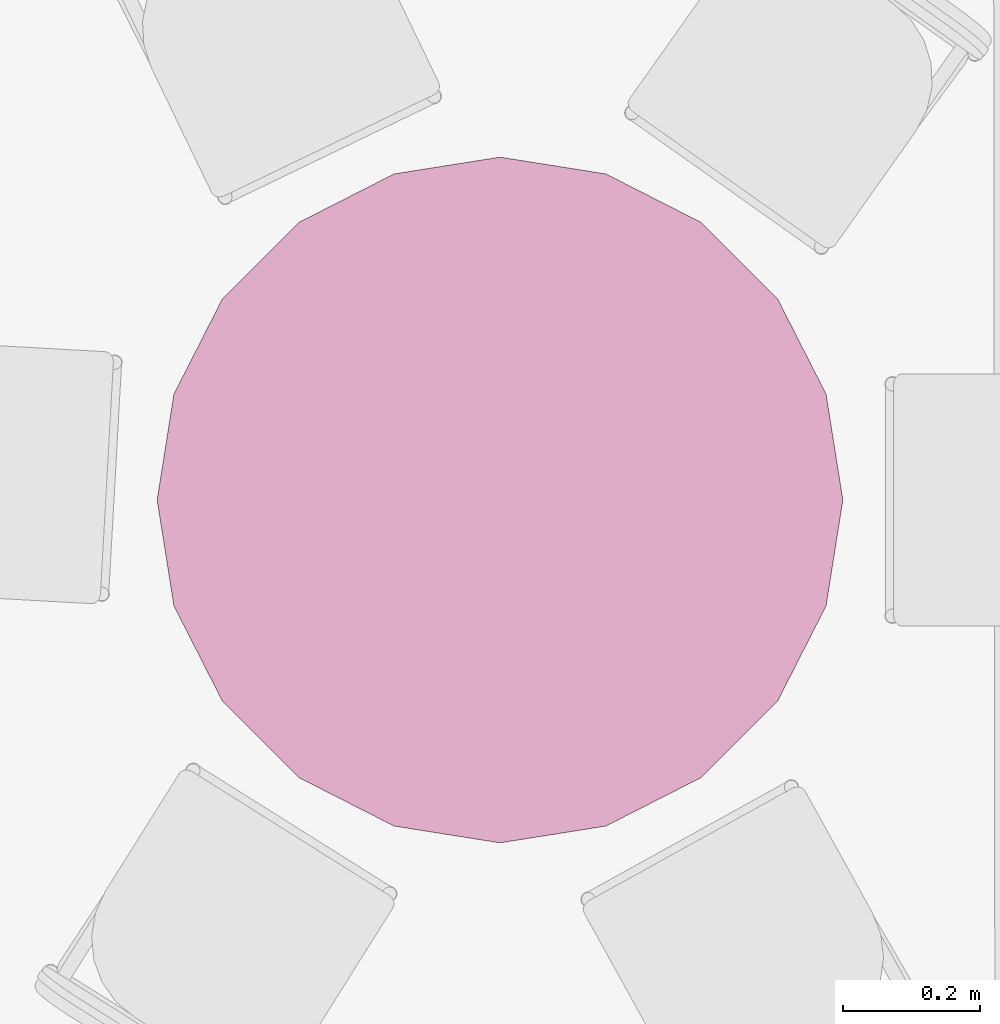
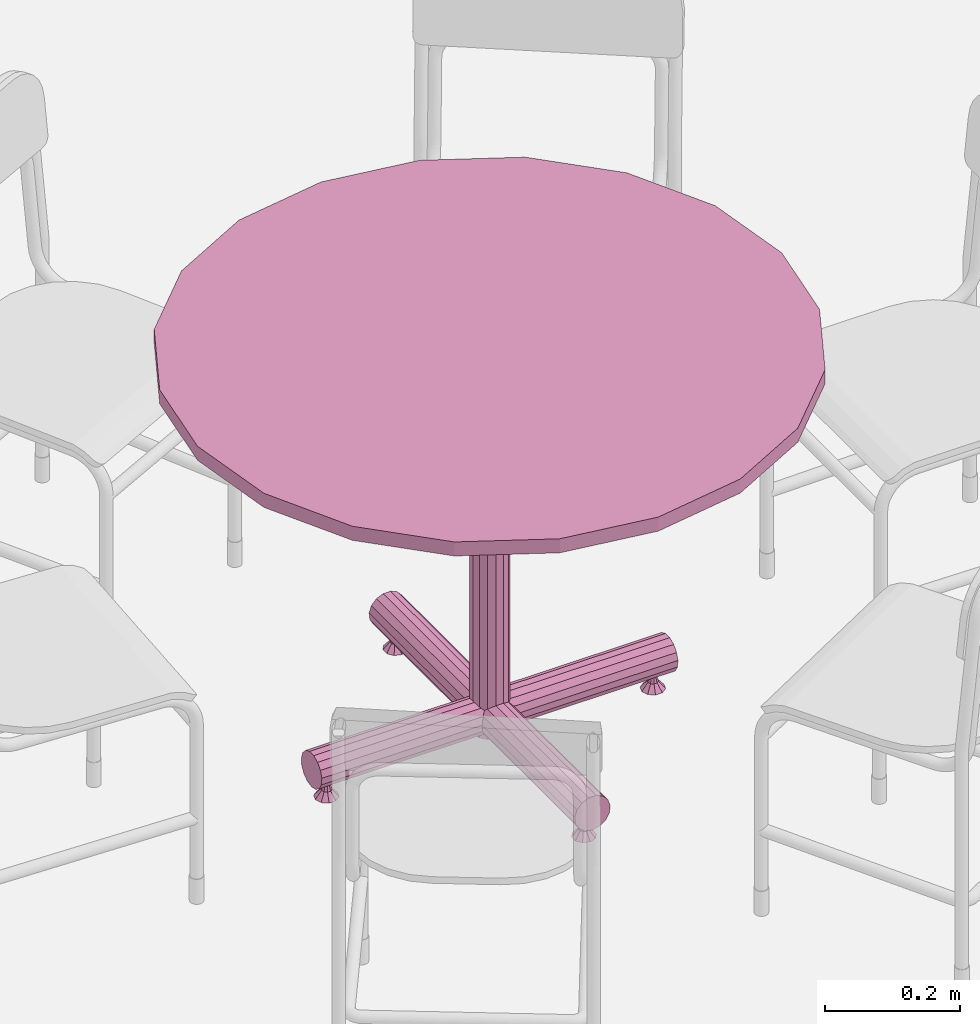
# One storey, part 275 of 301: 1 furnishing.
"""IFC2X3 building model written with IfcOpenShell, lengths in millimetres."""

from ifc_helpers import new_model, entity, si_unit, converted_unit, derived_unit, money_unit, direction, frame, origin_with_axes, place, context, subcontext, project, spatial, open_shell, faceted_brep, surface_model, source, transform, mapped, type_object, element, save


model = new_model("IFC2X3")

# Units and contexts
model_context = context("Model", 3, precision=0.01, world=origin_with_axes(), true_north=direction((0.0, 1.0)))
body_context = subcontext(model_context, "Body", "Model", "MODEL_VIEW")
ifc_project = project(units=[si_unit("LENGTHUNIT", "METRE", prefix="MILLI"), si_unit("AREAUNIT", "SQUARE_METRE"), si_unit("VOLUMEUNIT", "CUBIC_METRE"), converted_unit("PLANEANGLEUNIT", "DEGREE", entity("IfcPlaneAngleMeasure", 0.0174532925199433), si_unit("PLANEANGLEUNIT", "RADIAN"), dimensions=[0, 0, 0, 0, 0, 0, 0]), money_unit("EUR"), converted_unit("TIMEUNIT", "Year", entity("IfcTimeMeasure", 31557600.0), si_unit("TIMEUNIT", "SECOND"), dimensions=[0, 0, 1, 0, 0, 0, 0]), si_unit("MASSUNIT", "GRAM", prefix="KILO"), si_unit("THERMODYNAMICTEMPERATUREUNIT", "DEGREE_CELSIUS"), si_unit("LUMINOUSINTENSITYUNIT", "LUMEN"), si_unit("ENERGYUNIT", "JOULE", prefix="MEGA"), derived_unit("THERMALCONDUCTANCEUNIT", [(si_unit("POWERUNIT", "WATT"), 1), (si_unit("LENGTHUNIT", "METRE"), -1), (si_unit("THERMODYNAMICTEMPERATUREUNIT", "KELVIN"), -1)]), derived_unit("SPECIFICHEATCAPACITYUNIT", [(si_unit("ENERGYUNIT", "JOULE"), 1), (si_unit("MASSUNIT", "GRAM", prefix="KILO"), -1), (si_unit("THERMODYNAMICTEMPERATUREUNIT", "KELVIN"), -1)]), derived_unit("MASSDENSITYUNIT", [(si_unit("MASSUNIT", "GRAM", prefix="KILO"), 1), (si_unit("VOLUMEUNIT", "CUBIC_METRE"), -1)])], contexts=[model_context])

# Site, building, storey
site_placement = place(None, frame((0.0, 0.0, 8650.0), z_axis=(0.0, 0.0, 1.0), x_axis=(1.0, 0.0, 0.0)))
site = spatial("IfcSite", under=ifc_project, at=site_placement, Name="43301:001:0844", CompositionType="ELEMENT")
building_placement = place(site_placement, origin_with_axes())
building = spatial("IfcBuilding", under=site, at=building_placement, Name="Kuressaare Ametikooli tuulikute mehaanikute õppekorpus", CompositionType="ELEMENT")
storey_placement = place(building_placement, origin_with_axes())
storey = spatial("IfcBuildingStorey", under=building, at=storey_placement, Name="1.korrus", CompositionType="ELEMENT", Elevation=0.0)

# Furnishing
furniture_type = type_object("IfcFurnitureType", Name="Round Table 02 27", AssemblyPlace="NOTDEFINED")
shared_shape = source(origin_with_axes(), body_context, "Body", "SurfaceModel", [
    faceted_brep([(294.8117737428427, -11.19730905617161, 0.0), (298.45, 0.0, 0.0), (287.8666666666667, 0.0, 12.7), (286.2496772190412, -4.976581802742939, 12.7), (285.2867737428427, -18.11762663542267, 0.0), (273.5132262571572, -18.11762663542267, 0.0), (263.9882262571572, -11.19730905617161, 0.0), (260.35, 0.0, 0.0), (263.9882262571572, 11.19730905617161, 0.0), (273.5132262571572, 18.11762663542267, 0.0), (285.2867737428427, 18.11762663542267, 0.0), (294.8117737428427, 11.19730905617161, 0.0), (286.2496772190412, 4.976581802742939, 12.7), (282.0163438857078, 8.052278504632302, 12.7), (276.7836561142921, 8.052278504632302, 12.7), (272.5503227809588, 4.976581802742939, 12.7), (270.9333333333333, 0.0, 12.7), (272.5503227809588, -4.976581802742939, 12.7), (276.7836561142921, -8.052278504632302, 12.7), (282.0163438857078, -8.052278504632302, 12.7)], [[[0, 1, 2, 3]], [[0, 4, 5, 6, 7, 8, 9, 10, 11, 1]], [[1, 11, 12, 2]], [[3, 2, 12, 13, 14, 15, 16, 17, 18, 19]], [[4, 0, 3, 19]], [[5, 4, 19, 18]], [[6, 5, 18, 17]], [[7, 6, 17, 16]], [[8, 7, 16, 15]], [[9, 8, 15, 14]], [[10, 9, 14, 13]], [[11, 10, 13, 12]]]),
    faceted_brep([(286.2496772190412, -4.976581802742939, 12.7), (287.8666666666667, 0.0, 12.7), (284.48, 0.0, 25.4), (283.5098063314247, -2.985949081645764, 25.4), (282.0163438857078, -8.052278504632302, 12.7), (276.7836561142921, -8.052278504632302, 12.7), (272.5503227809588, -4.976581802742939, 12.7), (270.9333333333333, 0.0, 12.7), (272.5503227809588, 4.976581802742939, 12.7), (276.7836561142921, 8.052278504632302, 12.7), (282.0163438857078, 8.052278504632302, 12.7), (286.2496772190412, 4.976581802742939, 12.7), (283.5098063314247, 2.985949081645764, 25.4), (280.9698063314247, 4.831367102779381, 25.4), (277.8301936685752, 4.831367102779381, 25.4), (275.2901936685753, 2.985949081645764, 25.4), (274.32, 0.0, 25.4), (275.2901936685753, -2.985949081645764, 25.4), (277.8301936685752, -4.831367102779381, 25.4), (280.9698063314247, -4.831367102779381, 25.4)], [[[0, 1, 2, 3]], [[0, 4, 5, 6, 7, 8, 9, 10, 11, 1]], [[1, 11, 12, 2]], [[3, 2, 12, 13, 14, 15, 16, 17, 18, 19]], [[4, 0, 3, 19]], [[5, 4, 19, 18]], [[6, 5, 18, 17]], [[7, 6, 17, 16]], [[8, 7, 16, 15]], [[9, 8, 15, 14]], [[10, 9, 14, 13]], [[11, 10, 13, 12]]]),
    faceted_brep([(11.19730905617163, 294.8117737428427, 0.0), (0.0, 298.45, 0.0), (0.0, 287.8666666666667, 12.7), (4.976581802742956, 286.2496772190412, 12.7), (18.11762663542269, 285.2867737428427, 0.0), (18.11762663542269, 273.5132262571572, 0.0), (11.19730905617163, 263.9882262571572, 0.0), (0.0, 260.35, 0.0), (-11.1973090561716, 263.9882262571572, 0.0), (-18.11762663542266, 273.5132262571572, 0.0), (-18.11762663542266, 285.2867737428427, 0.0), (-11.19730905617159, 294.8117737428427, 0.0), (-4.976581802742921, 286.2496772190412, 12.7), (-8.052278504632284, 282.0163438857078, 12.7), (-8.052278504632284, 276.7836561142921, 12.7), (-4.976581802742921, 272.5503227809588, 12.7), (0.0, 270.9333333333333, 12.7), (4.976581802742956, 272.5503227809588, 12.7), (8.052278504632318, 276.7836561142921, 12.7), (8.052278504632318, 282.0163438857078, 12.7)], [[[0, 1, 2, 3]], [[0, 4, 5, 6, 7, 8, 9, 10, 11, 1]], [[1, 11, 12, 2]], [[3, 2, 12, 13, 14, 15, 16, 17, 18, 19]], [[4, 0, 3, 19]], [[5, 4, 19, 18]], [[6, 5, 18, 17]], [[7, 6, 17, 16]], [[8, 7, 16, 15]], [[9, 8, 15, 14]], [[10, 9, 14, 13]], [[11, 10, 13, 12]]]),
    faceted_brep([(4.976581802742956, 286.2496772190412, 12.7), (0.0, 287.8666666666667, 12.7), (0.0, 284.48, 25.4), (2.985949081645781, 283.5098063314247, 25.4), (8.052278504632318, 282.0163438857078, 12.7), (8.052278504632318, 276.7836561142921, 12.7), (4.976581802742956, 272.5503227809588, 12.7), (0.0, 270.9333333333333, 12.7), (-4.976581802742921, 272.5503227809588, 12.7), (-8.052278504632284, 276.7836561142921, 12.7), (-8.052278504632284, 282.0163438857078, 12.7), (-4.976581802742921, 286.2496772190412, 12.7), (-2.985949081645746, 283.5098063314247, 25.4), (-4.831367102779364, 280.9698063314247, 25.4), (-4.831367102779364, 277.8301936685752, 25.4), (-2.985949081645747, 275.2901936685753, 25.4), (0.0, 274.32, 25.4), (2.98594908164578, 275.2901936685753, 25.4), (4.831367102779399, 277.8301936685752, 25.4), (4.831367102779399, 280.9698063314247, 25.4)], [[[0, 1, 2, 3]], [[0, 4, 5, 6, 7, 8, 9, 10, 11, 1]], [[1, 11, 12, 2]], [[3, 2, 12, 13, 14, 15, 16, 17, 18, 19]], [[4, 0, 3, 19]], [[5, 4, 19, 18]], [[6, 5, 18, 17]], [[7, 6, 17, 16]], [[8, 7, 16, 15]], [[9, 8, 15, 14]], [[10, 9, 14, 13]], [[11, 10, 13, 12]]]),
    faceted_brep([(-294.8117737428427, 11.19730905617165, 0.0), (-298.45, 0.0, 0.0), (-287.8666666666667, 0.0, 12.7), (-286.2496772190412, 4.976581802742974, 12.7), (-285.2867737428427, 18.11762663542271, 0.0), (-273.5132262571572, 18.11762663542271, 0.0), (-263.9882262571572, 11.19730905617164, 0.0), (-260.35, 0.0, 0.0), (-263.9882262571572, -11.19730905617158, 0.0), (-273.5132262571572, -18.11762663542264, 0.0), (-285.2867737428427, -18.11762663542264, 0.0), (-294.8117737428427, -11.19730905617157, 0.0), (-286.2496772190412, -4.976581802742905, 12.7), (-282.0163438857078, -8.052278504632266, 12.7), (-276.7836561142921, -8.052278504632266, 12.7), (-272.5503227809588, -4.976581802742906, 12.7), (-270.9333333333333, 0.0, 12.7), (-272.5503227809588, 4.976581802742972, 12.7), (-276.7836561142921, 8.052278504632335, 12.7), (-282.0163438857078, 8.052278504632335, 12.7)], [[[0, 1, 2, 3]], [[0, 4, 5, 6, 7, 8, 9, 10, 11, 1]], [[1, 11, 12, 2]], [[3, 2, 12, 13, 14, 15, 16, 17, 18, 19]], [[4, 0, 3, 19]], [[5, 4, 19, 18]], [[6, 5, 18, 17]], [[7, 6, 17, 16]], [[8, 7, 16, 15]], [[9, 8, 15, 14]], [[10, 9, 14, 13]], [[11, 10, 13, 12]]]),
    faceted_brep([(-286.2496772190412, 4.976581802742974, 12.7), (-287.8666666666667, 0.0, 12.7), (-284.48, 0.0, 25.4), (-283.5098063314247, 2.985949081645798, 25.4), (-282.0163438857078, 8.052278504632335, 12.7), (-276.7836561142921, 8.052278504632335, 12.7), (-272.5503227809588, 4.976581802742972, 12.7), (-270.9333333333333, 0.0, 12.7), (-272.5503227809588, -4.976581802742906, 12.7), (-276.7836561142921, -8.052278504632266, 12.7), (-282.0163438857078, -8.052278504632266, 12.7), (-286.2496772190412, -4.976581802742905, 12.7), (-283.5098063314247, -2.985949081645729, 25.4), (-280.9698063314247, -4.831367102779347, 25.4), (-277.8301936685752, -4.831367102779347, 25.4), (-275.2901936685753, -2.98594908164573, 25.4), (-274.32, 0.0, 25.4), (-275.2901936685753, 2.985949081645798, 25.4), (-277.8301936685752, 4.831367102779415, 25.4), (-280.9698063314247, 4.831367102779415, 25.4)], [[[0, 1, 2, 3]], [[0, 4, 5, 6, 7, 8, 9, 10, 11, 1]], [[1, 11, 12, 2]], [[3, 2, 12, 13, 14, 15, 16, 17, 18, 19]], [[4, 0, 3, 19]], [[5, 4, 19, 18]], [[6, 5, 18, 17]], [[7, 6, 17, 16]], [[8, 7, 16, 15]], [[9, 8, 15, 14]], [[10, 9, 14, 13]], [[11, 10, 13, 12]]]),
    faceted_brep([(-11.19730905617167, -294.8117737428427, 0.0), (0.0, -298.45, 0.0), (0.0, -287.8666666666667, 12.7), (-4.976581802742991, -286.2496772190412, 12.7), (-18.11762663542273, -285.2867737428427, 0.0), (-18.11762663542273, -273.5132262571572, 0.0), (-11.19730905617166, -263.9882262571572, 0.0), (0.0, -260.35, 0.0), (11.19730905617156, -263.9882262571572, 0.0), (18.11762663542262, -273.5132262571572, 0.0), (18.11762663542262, -285.2867737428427, 0.0), (11.19730905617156, -294.8117737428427, 0.0), (4.976581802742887, -286.2496772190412, 12.7), (8.052278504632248, -282.0163438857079, 12.7), (8.052278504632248, -276.7836561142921, 12.7), (4.976581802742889, -272.5503227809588, 12.7), (0.0, -270.9333333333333, 12.7), (-4.976581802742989, -272.5503227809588, 12.7), (-8.052278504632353, -276.7836561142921, 12.7), (-8.052278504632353, -282.0163438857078, 12.7)], [[[0, 1, 2, 3]], [[0, 4, 5, 6, 7, 8, 9, 10, 11, 1]], [[1, 11, 12, 2]], [[3, 2, 12, 13, 14, 15, 16, 17, 18, 19]], [[4, 0, 3, 19]], [[5, 4, 19, 18]], [[6, 5, 18, 17]], [[7, 6, 17, 16]], [[8, 7, 16, 15]], [[9, 8, 15, 14]], [[10, 9, 14, 13]], [[11, 10, 13, 12]]]),
    faceted_brep([(-4.976581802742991, -286.2496772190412, 12.7), (0.0, -287.8666666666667, 12.7), (0.0, -284.48, 25.4), (-2.985949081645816, -283.5098063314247, 25.4), (-8.052278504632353, -282.0163438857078, 12.7), (-8.052278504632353, -276.7836561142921, 12.7), (-4.976581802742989, -272.5503227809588, 12.7), (0.0, -270.9333333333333, 12.7), (4.976581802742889, -272.5503227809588, 12.7), (8.052278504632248, -276.7836561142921, 12.7), (8.052278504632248, -282.0163438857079, 12.7), (4.976581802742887, -286.2496772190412, 12.7), (2.985949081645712, -283.5098063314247, 25.4), (4.83136710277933, -280.9698063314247, 25.4), (4.83136710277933, -277.8301936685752, 25.4), (2.985949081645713, -275.2901936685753, 25.4), (0.0, -274.32, 25.4), (-2.985949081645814, -275.2901936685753, 25.4), (-4.831367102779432, -277.8301936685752, 25.4), (-4.831367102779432, -280.9698063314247, 25.4)], [[[0, 1, 2, 3]], [[0, 4, 5, 6, 7, 8, 9, 10, 11, 1]], [[1, 11, 12, 2]], [[3, 2, 12, 13, 14, 15, 16, 17, 18, 19]], [[4, 0, 3, 19]], [[5, 4, 19, 18]], [[6, 5, 18, 17]], [[7, 6, 17, 16]], [[8, 7, 16, 15]], [[9, 8, 15, 14]], [[10, 9, 14, 13]], [[11, 10, 13, 12]]]),
    surface_model("IfcShellBasedSurfaceModel", [(27.84486554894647, -12.3973328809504, 28.03513445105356), (30.48, 0.0, 25.40000000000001), (304.8, 0.0, 25.40000000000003), (304.8, -12.3973328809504, 28.03513445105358), (27.84486554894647, 12.39733288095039, 28.03513445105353), (304.8, 12.39733288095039, 28.03513445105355), (304.8, 22.65105428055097, 35.48489911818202), (304.8, 28.98820261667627, 46.46116201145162), (304.8, 30.31302737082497, 59.06602756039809), (304.8, 26.39645430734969, 71.12), (304.8, 17.91569448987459, 80.5388379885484), (304.8, 6.337148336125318, 85.6939388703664), (304.8, -6.337148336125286, 85.6939388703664), (304.8, -17.91569448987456, 80.53883798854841), (304.8, -26.39645430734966, 71.12000000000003), (304.8, -30.31302737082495, 59.06602756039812), (304.8, -28.98820261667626, 46.46116201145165), (304.8, -22.65105428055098, 35.48489911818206), (21.34442362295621, -21.3444236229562, 34.53557637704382), (22.65105428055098, -22.65105428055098, 35.48489911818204), (21.34442362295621, 21.34442362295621, 34.5355763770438), (22.65105428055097, 22.65105428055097, 35.48489911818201), (28.98820261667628, 28.98820261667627, 46.4611620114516), (30.31302737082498, 30.31302737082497, 59.06602756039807), (26.39645430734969, 26.39645430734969, 71.11999999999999), (21.1105696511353, 21.1105696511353, 76.99056965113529), (24.65883798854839, 17.91569448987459, 80.53883798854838), (29.81393887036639, 6.337148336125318, 85.69393887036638), (29.8139388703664, -6.337148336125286, 85.69393887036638), (24.65883798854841, -17.91569448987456, 80.53883798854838), (21.1105696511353, -21.1105696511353, 76.99056965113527), (26.39645430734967, -26.39645430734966, 71.12), (30.31302737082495, -30.31302737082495, 59.0660275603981), (28.98820261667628, -28.98820261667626, 46.46116201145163)], [open_shell([[[0, 1, 2, 3]], [[1, 4, 5, 2]], [[3, 2, 5, 6, 7, 8, 9, 10, 11, 12, 13, 14, 15, 16, 17]], [[18, 0, 3, 17, 19]], [[4, 20, 21, 6, 5]], [[22, 7, 6, 21]], [[23, 8, 7, 22]], [[24, 9, 8, 23]], [[25, 26, 10, 9, 24]], [[26, 27, 11, 10]], [[27, 28, 12, 11]], [[28, 29, 13, 12]], [[29, 30, 31, 14, 13]], [[32, 15, 14, 31]], [[33, 16, 15, 32]], [[19, 17, 16, 33]]])]),
    surface_model("IfcShellBasedSurfaceModel", [(12.3973328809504, 27.84486554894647, 28.03513445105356), (0.0, 30.48, 25.40000000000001), (0.0, 304.8, 25.40000000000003), (12.39733288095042, 304.8, 28.03513445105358), (-12.39733288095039, 27.84486554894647, 28.03513445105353), (-12.39733288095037, 304.8, 28.03513445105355), (-22.65105428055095, 304.8, 35.48489911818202), (-28.98820261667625, 304.8, 46.46116201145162), (-30.31302737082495, 304.8, 59.06602756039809), (-26.39645430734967, 304.8, 71.12), (-17.91569448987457, 304.8, 80.5388379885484), (-6.337148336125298, 304.8, 85.6939388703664), (6.337148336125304, 304.8, 85.6939388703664), (17.91569448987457, 304.8, 80.53883798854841), (26.39645430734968, 304.8, 71.12000000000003), (30.31302737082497, 304.8, 59.06602756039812), (28.98820261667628, 304.8, 46.46116201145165), (22.65105428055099, 304.8, 35.48489911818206), (21.3444236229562, 21.34442362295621, 34.53557637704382), (22.65105428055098, 22.65105428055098, 35.48489911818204), (-21.34442362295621, 21.34442362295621, 34.5355763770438), (-22.65105428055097, 22.65105428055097, 35.48489911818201), (-28.98820261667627, 28.98820261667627, 46.4611620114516), (-30.31302737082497, 30.31302737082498, 59.06602756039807), (-26.39645430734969, 26.39645430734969, 71.11999999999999), (-21.1105696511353, 21.1105696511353, 76.99056965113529), (-17.91569448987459, 24.65883798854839, 80.53883798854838), (-6.337148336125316, 29.81393887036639, 85.69393887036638), (6.337148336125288, 29.8139388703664, 85.69393887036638), (17.91569448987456, 24.65883798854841, 80.53883798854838), (21.1105696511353, 21.1105696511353, 76.99056965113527), (26.39645430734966, 26.39645430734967, 71.12), (30.31302737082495, 30.31302737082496, 59.0660275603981), (28.98820261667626, 28.98820261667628, 46.46116201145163)], [open_shell([[[0, 1, 2, 3]], [[1, 4, 5, 2]], [[3, 2, 5, 6, 7, 8, 9, 10, 11, 12, 13, 14, 15, 16, 17]], [[18, 0, 3, 17, 19]], [[4, 20, 21, 6, 5]], [[22, 7, 6, 21]], [[23, 8, 7, 22]], [[24, 9, 8, 23]], [[25, 26, 10, 9, 24]], [[26, 27, 11, 10]], [[27, 28, 12, 11]], [[28, 29, 13, 12]], [[29, 30, 31, 14, 13]], [[32, 15, 14, 31]], [[33, 16, 15, 32]], [[19, 17, 16, 33]]])]),
    surface_model("IfcShellBasedSurfaceModel", [(-27.84486554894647, 12.39733288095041, 28.03513445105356), (-30.48, 0.0, 25.40000000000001), (-304.8, 0.0, 25.40000000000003), (-304.8, 12.39733288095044, 28.03513445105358), (-27.84486554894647, -12.39733288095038, 28.03513445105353), (-304.8, -12.39733288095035, 28.03513445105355), (-304.8, -22.65105428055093, 35.48489911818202), (-304.8, -28.98820261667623, 46.46116201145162), (-304.8, -30.31302737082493, 59.06602756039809), (-304.8, -26.39645430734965, 71.12), (-304.8, -17.91569448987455, 80.5388379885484), (-304.8, -6.337148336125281, 85.6939388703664), (-304.8, 6.337148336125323, 85.6939388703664), (-304.8, 17.9156944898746, 80.53883798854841), (-304.8, 26.3964543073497, 71.12000000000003), (-304.8, 30.31302737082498, 59.06602756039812), (-304.8, 28.9882026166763, 46.46116201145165), (-304.8, 22.65105428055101, 35.48489911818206), (-21.3444236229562, 21.34442362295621, 34.53557637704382), (-22.65105428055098, 22.65105428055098, 35.48489911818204), (-21.34442362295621, -21.3444236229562, 34.5355763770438), (-22.65105428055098, -22.65105428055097, 35.48489911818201), (-28.98820261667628, -28.98820261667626, 46.4611620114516), (-30.31302737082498, -30.31302737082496, 59.06602756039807), (-26.3964543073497, -26.39645430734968, 71.11999999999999), (-21.11056965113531, -21.11056965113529, 76.99056965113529), (-24.65883798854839, -17.91569448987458, 80.53883798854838), (-29.81393887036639, -6.337148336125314, 85.69393887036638), (-29.8139388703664, 6.337148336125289, 85.69393887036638), (-24.65883798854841, 17.91569448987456, 80.53883798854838), (-21.1105696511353, 21.1105696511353, 76.99056965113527), (-26.39645430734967, 26.39645430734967, 71.12), (-30.31302737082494, 30.31302737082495, 59.0660275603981), (-28.98820261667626, 28.98820261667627, 46.46116201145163)], [open_shell([[[0, 1, 2, 3]], [[1, 4, 5, 2]], [[3, 2, 5, 6, 7, 8, 9, 10, 11, 12, 13, 14, 15, 16, 17]], [[18, 0, 3, 17, 19]], [[4, 20, 21, 6, 5]], [[22, 7, 6, 21]], [[23, 8, 7, 22]], [[24, 9, 8, 23]], [[25, 26, 10, 9, 24]], [[26, 27, 11, 10]], [[27, 28, 12, 11]], [[28, 29, 13, 12]], [[29, 30, 31, 14, 13]], [[32, 15, 14, 31]], [[33, 16, 15, 32]], [[19, 17, 16, 33]]])]),
    surface_model("IfcShellBasedSurfaceModel", [(-12.39733288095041, -27.84486554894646, 28.03513445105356), (0.0, -30.48, 25.40000000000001), (0.0, -304.8, 25.40000000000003), (-12.39733288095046, -304.8, 28.03513445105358), (12.39733288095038, -27.84486554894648, 28.03513445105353), (12.39733288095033, -304.8, 28.03513445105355), (22.65105428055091, -304.8, 35.48489911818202), (28.98820261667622, -304.8, 46.46116201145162), (30.31302737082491, -304.8, 59.06602756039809), (26.39645430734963, -304.8, 71.12), (17.91569448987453, -304.8, 80.5388379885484), (6.337148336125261, -304.8, 85.6939388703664), (-6.337148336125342, -304.8, 85.6939388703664), (-17.91569448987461, -304.8, 80.53883798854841), (-26.39645430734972, -304.8, 71.12000000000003), (-30.313027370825, -304.8, 59.06602756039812), (-28.98820261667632, -304.8, 46.46116201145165), (-22.65105428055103, -304.8, 35.48489911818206), (-21.34442362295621, -21.3444236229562, 34.53557637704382), (-22.65105428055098, -22.65105428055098, 35.48489911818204), (21.3444236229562, -21.34442362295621, 34.5355763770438), (22.65105428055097, -22.65105428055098, 35.48489911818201), (28.98820261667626, -28.98820261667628, 46.4611620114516), (30.31302737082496, -30.31302737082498, 59.06602756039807), (26.39645430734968, -26.3964543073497, 71.11999999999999), (21.11056965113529, -21.11056965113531, 76.99056965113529), (17.91569448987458, -24.65883798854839, 80.53883798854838), (6.337148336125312, -29.81393887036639, 85.69393887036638), (-6.33714833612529, -29.8139388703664, 85.69393887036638), (-17.91569448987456, -24.65883798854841, 80.53883798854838), (-21.1105696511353, -21.1105696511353, 76.99056965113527), (-26.39645430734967, -26.39645430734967, 71.12), (-30.31302737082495, -30.31302737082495, 59.0660275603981), (-28.98820261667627, -28.98820261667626, 46.46116201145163)], [open_shell([[[0, 1, 2, 3]], [[1, 4, 5, 2]], [[3, 2, 5, 6, 7, 8, 9, 10, 11, 12, 13, 14, 15, 16, 17]], [[18, 0, 3, 17, 19]], [[4, 20, 21, 6, 5]], [[22, 7, 6, 21]], [[23, 8, 7, 22]], [[24, 9, 8, 23]], [[25, 26, 10, 9, 24]], [[26, 27, 11, 10]], [[27, 28, 12, 11]], [[28, 29, 13, 12]], [[29, 30, 31, 14, 13]], [[32, 15, 14, 31]], [[33, 16, 15, 32]], [[19, 17, 16, 33]]])]),
    faceted_brep([(27.84486554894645, -12.3973328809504, 25.4), (20.39510088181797, -22.65105428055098, 25.4), (9.418837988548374, -28.98820261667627, 25.4), (-3.186027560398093, -30.31302737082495, 25.4), (-15.24000000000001, -26.39645430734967, 25.4), (-24.65883798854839, -17.91569448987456, 25.4), (-29.81393887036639, -6.337148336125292, 25.4), (-29.81393887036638, 6.337148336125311, 25.4), (-24.65883798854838, 17.91569448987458, 25.4), (-15.23999999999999, 26.39645430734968, 25.4), (-3.186027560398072, 30.31302737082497, 25.4), (9.418837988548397, 28.98820261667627, 25.4), (20.39510088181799, 22.65105428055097, 25.4), (27.84486554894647, 12.39733288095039, 25.4), (30.48, 0.0, 25.4), (27.84486554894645, -12.3973328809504, 684.6), (20.39510088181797, -22.65105428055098, 684.6), (9.418837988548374, -28.98820261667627, 684.6), (-3.186027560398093, -30.31302737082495, 684.6), (-15.24000000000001, -26.39645430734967, 684.6), (-24.65883798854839, -17.91569448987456, 684.6), (-29.81393887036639, -6.337148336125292, 684.6), (-29.81393887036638, 6.337148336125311, 684.6), (-24.65883798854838, 17.91569448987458, 684.6), (-15.23999999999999, 26.39645430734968, 684.6), (-3.186027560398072, 30.31302737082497, 684.6), (9.418837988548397, 28.98820261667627, 684.6), (20.39510088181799, 22.65105428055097, 684.6), (27.84486554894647, 12.39733288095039, 684.6), (30.48, 0.0, 684.6)], [[[0, 1, 2, 3, 4, 5, 6, 7, 8, 9, 10, 11, 12, 13, 14]], [[1, 0, 15, 16]], [[2, 1, 16, 17]], [[3, 2, 17, 18]], [[4, 3, 18, 19]], [[5, 4, 19, 20]], [[6, 5, 20, 21]], [[7, 6, 21, 22]], [[8, 7, 22, 23]], [[9, 8, 23, 24]], [[10, 9, 24, 25]], [[11, 10, 25, 26]], [[12, 11, 26, 27]], [[13, 12, 27, 28]], [[14, 13, 28, 29]], [[0, 14, 29, 15]], [[15, 29, 28, 27, 26, 25, 24, 23, 22, 21, 20, 19, 18, 17, 16]]]),
    faceted_brep([(475.5282581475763, -154.5084971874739, 684.6), (404.5084971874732, -293.8926261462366, 684.6), (293.8926261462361, -404.5084971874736, 684.6), (154.5084971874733, -475.5282581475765, 684.6), (0.0, -499.9999999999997, 684.6), (-154.5084971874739, -475.5282581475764, 684.6), (-293.8926261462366, -404.5084971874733, 684.6), (-404.5084971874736, -293.8926261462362, 684.6), (-475.5282581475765, -154.5084971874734, 684.6), (-499.9999999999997, 0.0, 684.6), (-475.5282581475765, 154.5084971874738, 684.6), (-404.5084971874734, 293.8926261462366, 684.6), (-293.8926261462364, 404.5084971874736, 684.6), (-154.5084971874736, 475.5282581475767, 684.6), (0.0, 499.9999999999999, 684.6), (154.5084971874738, 475.5282581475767, 684.6), (293.8926261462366, 404.5084971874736, 684.6), (404.5084971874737, 293.8926261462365, 684.6), (475.5282581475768, 154.5084971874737, 684.6), (500.0, 0.0, 684.6), (475.5282581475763, -154.5084971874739, 710.0), (404.5084971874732, -293.8926261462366, 710.0), (293.8926261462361, -404.5084971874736, 710.0), (154.5084971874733, -475.5282581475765, 710.0), (0.0, -499.9999999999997, 710.0), (-154.5084971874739, -475.5282581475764, 710.0), (-293.8926261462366, -404.5084971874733, 710.0), (-404.5084971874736, -293.8926261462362, 710.0), (-475.5282581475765, -154.5084971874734, 710.0), (-499.9999999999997, 0.0, 710.0), (-475.5282581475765, 154.5084971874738, 710.0), (-404.5084971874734, 293.8926261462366, 710.0), (-293.8926261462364, 404.5084971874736, 710.0), (-154.5084971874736, 475.5282581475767, 710.0), (0.0, 499.9999999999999, 710.0), (154.5084971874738, 475.5282581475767, 710.0), (293.8926261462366, 404.5084971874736, 710.0), (404.5084971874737, 293.8926261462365, 710.0), (475.5282581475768, 154.5084971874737, 710.0), (500.0, 0.0, 710.0)], [[[0, 1, 2, 3, 4, 5, 6, 7, 8, 9, 10, 11, 12, 13, 14, 15, 16, 17, 18, 19]], [[1, 0, 20, 21]], [[2, 1, 21, 22]], [[3, 2, 22, 23]], [[4, 3, 23, 24]], [[5, 4, 24, 25]], [[6, 5, 25, 26]], [[7, 6, 26, 27]], [[8, 7, 27, 28]], [[9, 8, 28, 29]], [[10, 9, 29, 30]], [[11, 10, 30, 31]], [[12, 11, 31, 32]], [[13, 12, 32, 33]], [[14, 13, 33, 34]], [[15, 14, 34, 35]], [[16, 15, 35, 36]], [[17, 16, 36, 37]], [[18, 17, 37, 38]], [[19, 18, 38, 39]], [[0, 19, 39, 20]], [[20, 39, 38, 37, 36, 35, 34, 33, 32, 31, 30, 29, 28, 27, 26, 25, 24, 23, 22, 21]]]),
])
furnishing_placement = place(storey_placement, frame((127792.7147462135, 29264.61372339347, 0.0), z_axis=(0.0, 0.0, 1.0), x_axis=(0.0, 1.0, 0.0)))
element("IfcFurnishingElement", 1, at=furnishing_placement, inside=storey, type_object=furniture_type, Name="L1", context=body_context, shape_type="MappedRepresentation", body=[
    mapped(shared_shape, transform((0.0, 0.0, 0.0))),
])

save(model, "model.ifc")
